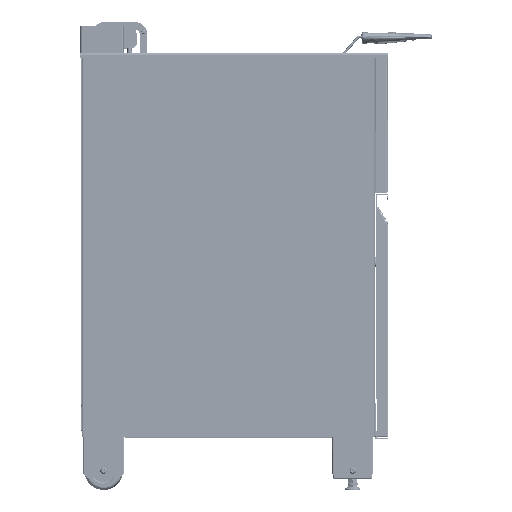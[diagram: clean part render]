
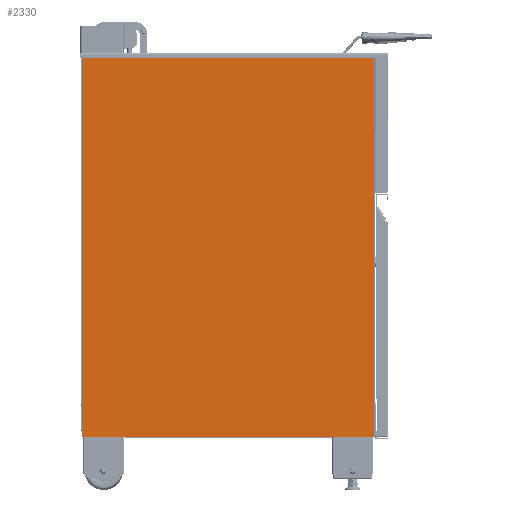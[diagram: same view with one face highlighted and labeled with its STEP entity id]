
A CAD part, left-side view. The second image highlights one B-rep face of the part: STEP entity #2330.
In plain terms, the highlighted planar face has unit normal (-1, 0, 0).
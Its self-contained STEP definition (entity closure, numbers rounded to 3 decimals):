
#2330=ADVANCED_FACE('',(#7994),#90763,.T.);
#7994=FACE_OUTER_BOUND('',#13770,.T.);
#13770=EDGE_LOOP('',(#24379,#24380,#24381,#24382,#24383,#24384,#24385,#24386,
#24387,#24388,#24389,#24390,#24391,#24392,#24393,#24394));
#24379=ORIENTED_EDGE('',*,*,#50444,.T.);
#24380=ORIENTED_EDGE('',*,*,#50445,.T.);
#24381=ORIENTED_EDGE('',*,*,#50446,.T.);
#24382=ORIENTED_EDGE('',*,*,#50447,.T.);
#24383=ORIENTED_EDGE('',*,*,#50448,.T.);
#24384=ORIENTED_EDGE('',*,*,#50449,.T.);
#24385=ORIENTED_EDGE('',*,*,#50450,.T.);
#24386=ORIENTED_EDGE('',*,*,#50451,.T.);
#24387=ORIENTED_EDGE('',*,*,#50452,.T.);
#24388=ORIENTED_EDGE('',*,*,#50453,.T.);
#24389=ORIENTED_EDGE('',*,*,#50454,.T.);
#24390=ORIENTED_EDGE('',*,*,#50455,.T.);
#24391=ORIENTED_EDGE('',*,*,#50456,.T.);
#24392=ORIENTED_EDGE('',*,*,#50457,.T.);
#24393=ORIENTED_EDGE('',*,*,#50458,.T.);
#24394=ORIENTED_EDGE('',*,*,#50459,.T.);
#50444=EDGE_CURVE('',#82510,#82511,#64240,.T.);
#50445=EDGE_CURVE('',#82511,#82512,#64241,.T.);
#50446=EDGE_CURVE('',#82512,#82513,#64242,.T.);
#50447=EDGE_CURVE('',#82513,#82514,#64243,.T.);
#50448=EDGE_CURVE('',#82514,#82515,#64244,.T.);
#50449=EDGE_CURVE('',#82515,#82516,#64245,.T.);
#50450=EDGE_CURVE('',#82516,#82517,#64246,.T.);
#50451=EDGE_CURVE('',#82517,#82518,#64247,.T.);
#50452=EDGE_CURVE('',#82518,#82519,#64248,.T.);
#50453=EDGE_CURVE('',#82519,#82520,#64249,.T.);
#50454=EDGE_CURVE('',#82520,#82521,#64250,.T.);
#50455=EDGE_CURVE('',#82521,#82522,#64251,.T.);
#50456=EDGE_CURVE('',#82522,#82523,#64252,.T.);
#50457=EDGE_CURVE('',#82523,#82524,#64253,.T.);
#50458=EDGE_CURVE('',#82524,#82525,#64254,.T.);
#50459=EDGE_CURVE('',#82525,#82510,#64255,.T.);
#64240=B_SPLINE_CURVE_WITH_KNOTS('',1,(#154410,#154411),.UNSPECIFIED.,.F.,
 .F.,(2,2),(0.,0.5),.UNSPECIFIED.);
#64241=B_SPLINE_CURVE_WITH_KNOTS('',1,(#154412,#154413),.UNSPECIFIED.,.F.,
 .F.,(2,2),(0.,0.5),.UNSPECIFIED.);
#64242=B_SPLINE_CURVE_WITH_KNOTS('',1,(#154414,#154415),.UNSPECIFIED.,.F.,
 .F.,(2,2),(0.,402.),.UNSPECIFIED.);
#64243=B_SPLINE_CURVE_WITH_KNOTS('',1,(#154416,#154417),.UNSPECIFIED.,.F.,
 .F.,(2,2),(0.,0.5),.UNSPECIFIED.);
#64244=B_SPLINE_CURVE_WITH_KNOTS('',1,(#154418,#154419),.UNSPECIFIED.,.F.,
 .F.,(2,2),(0.,0.5),.UNSPECIFIED.);
#64245=B_SPLINE_CURVE_WITH_KNOTS('',1,(#154420,#154421),.UNSPECIFIED.,.F.,
 .F.,(2,2),(0.,2.5),.UNSPECIFIED.);
#64246=B_SPLINE_CURVE_WITH_KNOTS('',1,(#154422,#154423),.UNSPECIFIED.,.F.,
 .F.,(2,2),(0.,81.335),.UNSPECIFIED.);
#64247=B_SPLINE_CURVE_WITH_KNOTS('',1,(#154424,#154425),.UNSPECIFIED.,.F.,
 .F.,(2,2),(0.,744.8),.UNSPECIFIED.);
#64248=B_SPLINE_CURVE_WITH_KNOTS('',1,(#154426,#154427),.UNSPECIFIED.,.F.,
 .F.,(2,2),(0.,81.835),.UNSPECIFIED.);
#64249=B_SPLINE_CURVE_WITH_KNOTS('',1,(#154428,#154429),.UNSPECIFIED.,.F.,
 .F.,(2,2),(0.,0.2),.UNSPECIFIED.);
#64250=B_SPLINE_CURVE_WITH_KNOTS('',1,(#154430,#154431),.UNSPECIFIED.,.F.,
 .F.,(2,2),(0.,402.),.UNSPECIFIED.);
#64251=B_SPLINE_CURVE_WITH_KNOTS('',1,(#154432,#154433),.UNSPECIFIED.,.F.,
 .F.,(2,2),(0.,0.2),.UNSPECIFIED.);
#64252=B_SPLINE_CURVE_WITH_KNOTS('',1,(#154434,#154435),.UNSPECIFIED.,.F.,
 .F.,(2,2),(0.,81.835),.UNSPECIFIED.);
#64253=B_SPLINE_CURVE_WITH_KNOTS('',1,(#154436,#154437),.UNSPECIFIED.,.F.,
 .F.,(2,2),(0.,744.8),.UNSPECIFIED.);
#64254=B_SPLINE_CURVE_WITH_KNOTS('',1,(#154438,#154439),.UNSPECIFIED.,.F.,
 .F.,(2,2),(0.,81.335),.UNSPECIFIED.);
#64255=B_SPLINE_CURVE_WITH_KNOTS('',1,(#154440,#154441),.UNSPECIFIED.,.F.,
 .F.,(2,2),(0.,2.5),.UNSPECIFIED.);
#82510=VERTEX_POINT('',#154076);
#82511=VERTEX_POINT('',#154077);
#82512=VERTEX_POINT('',#154078);
#82513=VERTEX_POINT('',#154079);
#82514=VERTEX_POINT('',#154080);
#82515=VERTEX_POINT('',#154081);
#82516=VERTEX_POINT('',#154082);
#82517=VERTEX_POINT('',#154083);
#82518=VERTEX_POINT('',#154084);
#82519=VERTEX_POINT('',#154085);
#82520=VERTEX_POINT('',#154086);
#82521=VERTEX_POINT('',#154087);
#82522=VERTEX_POINT('',#154088);
#82523=VERTEX_POINT('',#154089);
#82524=VERTEX_POINT('',#154090);
#82525=VERTEX_POINT('',#154091);
#90763=PLANE('',#96832);
#96832=AXIS2_PLACEMENT_3D('',#153823,#106185,$);
#106185=DIRECTION('',(-1.,0.,0.));
#153823=CARTESIAN_POINT('',(-97.,338.4,28.));
#154076=CARTESIAN_POINT('',(-97.,-202.502,845.));
#154077=CARTESIAN_POINT('',(-97.,-202.002,845.));
#154078=CARTESIAN_POINT('',(-97.,-202.002,845.5));
#154079=CARTESIAN_POINT('',(-97.,199.998,845.5));
#154080=CARTESIAN_POINT('',(-97.,199.998,845.));
#154081=CARTESIAN_POINT('',(-97.,200.498,845.));
#154082=CARTESIAN_POINT('',(-97.,200.498,847.5));
#154083=CARTESIAN_POINT('',(-97.,281.833,847.5));
#154084=CARTESIAN_POINT('',(-97.,281.833,102.7));
#154085=CARTESIAN_POINT('',(-97.,199.998,102.7));
#154086=CARTESIAN_POINT('',(-97.,199.998,102.5));
#154087=CARTESIAN_POINT('',(-97.,-202.002,102.5));
#154088=CARTESIAN_POINT('',(-97.,-202.002,102.7));
#154089=CARTESIAN_POINT('',(-97.,-283.837,102.7));
#154090=CARTESIAN_POINT('',(-97.,-283.837,847.5));
#154091=CARTESIAN_POINT('',(-97.,-202.502,847.5));
#154410=CARTESIAN_POINT('',(-97.,-202.502,845.));
#154411=CARTESIAN_POINT('',(-97.,-202.002,845.));
#154412=CARTESIAN_POINT('',(-97.,-202.002,845.));
#154413=CARTESIAN_POINT('',(-97.,-202.002,845.5));
#154414=CARTESIAN_POINT('',(-97.,-202.002,845.5));
#154415=CARTESIAN_POINT('',(-97.,199.998,845.5));
#154416=CARTESIAN_POINT('',(-97.,199.998,845.5));
#154417=CARTESIAN_POINT('',(-97.,199.998,845.));
#154418=CARTESIAN_POINT('',(-97.,199.998,845.));
#154419=CARTESIAN_POINT('',(-97.,200.498,845.));
#154420=CARTESIAN_POINT('',(-97.,200.498,845.));
#154421=CARTESIAN_POINT('',(-97.,200.498,847.5));
#154422=CARTESIAN_POINT('',(-97.,200.498,847.5));
#154423=CARTESIAN_POINT('',(-97.,281.833,847.5));
#154424=CARTESIAN_POINT('',(-97.,281.833,847.5));
#154425=CARTESIAN_POINT('',(-97.,281.833,102.7));
#154426=CARTESIAN_POINT('',(-97.,281.833,102.7));
#154427=CARTESIAN_POINT('',(-97.,199.998,102.7));
#154428=CARTESIAN_POINT('',(-97.,199.998,102.7));
#154429=CARTESIAN_POINT('',(-97.,199.998,102.5));
#154430=CARTESIAN_POINT('',(-97.,199.998,102.5));
#154431=CARTESIAN_POINT('',(-97.,-202.002,102.5));
#154432=CARTESIAN_POINT('',(-97.,-202.002,102.5));
#154433=CARTESIAN_POINT('',(-97.,-202.002,102.7));
#154434=CARTESIAN_POINT('',(-97.,-202.002,102.7));
#154435=CARTESIAN_POINT('',(-97.,-283.837,102.7));
#154436=CARTESIAN_POINT('',(-97.,-283.837,102.7));
#154437=CARTESIAN_POINT('',(-97.,-283.837,847.5));
#154438=CARTESIAN_POINT('',(-97.,-283.837,847.5));
#154439=CARTESIAN_POINT('',(-97.,-202.502,847.5));
#154440=CARTESIAN_POINT('',(-97.,-202.502,847.5));
#154441=CARTESIAN_POINT('',(-97.,-202.502,845.));
